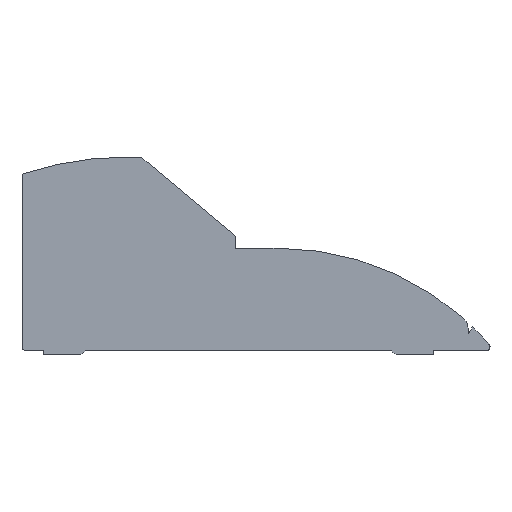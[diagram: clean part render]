
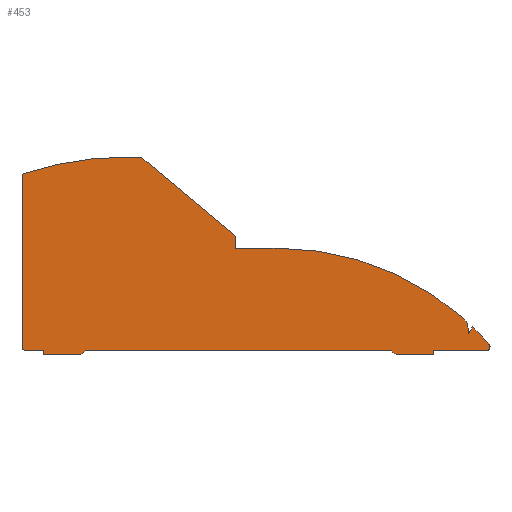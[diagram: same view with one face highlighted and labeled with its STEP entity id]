
A CAD part, left-side view. The second image highlights one B-rep face of the part: STEP entity #453.
In plain terms, the highlighted planar face has unit normal (-1, 0, 0).
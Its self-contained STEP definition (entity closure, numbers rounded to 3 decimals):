
#20=CIRCLE('',#489,162.1);
#29=CIRCLE('',#500,6.);
#30=CIRCLE('',#501,6.);
#31=CIRCLE('',#502,2.);
#32=CIRCLE('',#503,136.5);
#33=CIRCLE('',#504,7.3);
#34=CIRCLE('',#505,136.5);
#35=CIRCLE('',#506,2.);
#74=ORIENTED_EDGE('',*,*,#204,.F.);
#75=ORIENTED_EDGE('',*,*,#205,.T.);
#76=ORIENTED_EDGE('',*,*,#206,.T.);
#77=ORIENTED_EDGE('',*,*,#207,.T.);
#78=ORIENTED_EDGE('',*,*,#176,.F.);
#79=ORIENTED_EDGE('',*,*,#208,.F.);
#80=ORIENTED_EDGE('',*,*,#209,.F.);
#81=ORIENTED_EDGE('',*,*,#210,.F.);
#82=ORIENTED_EDGE('',*,*,#211,.F.);
#83=ORIENTED_EDGE('',*,*,#212,.T.);
#84=ORIENTED_EDGE('',*,*,#213,.F.);
#85=ORIENTED_EDGE('',*,*,#214,.F.);
#86=ORIENTED_EDGE('',*,*,#215,.F.);
#87=ORIENTED_EDGE('',*,*,#216,.F.);
#88=ORIENTED_EDGE('',*,*,#217,.F.);
#89=ORIENTED_EDGE('',*,*,#218,.F.);
#90=ORIENTED_EDGE('',*,*,#219,.T.);
#91=ORIENTED_EDGE('',*,*,#220,.T.);
#92=ORIENTED_EDGE('',*,*,#221,.T.);
#93=ORIENTED_EDGE('',*,*,#181,.T.);
#94=ORIENTED_EDGE('',*,*,#222,.F.);
#95=ORIENTED_EDGE('',*,*,#223,.T.);
#176=EDGE_CURVE('',#242,#243,#286,.T.);
#181=EDGE_CURVE('',#248,#246,#20,.T.);
#204=EDGE_CURVE('',#268,#269,#305,.T.);
#205=EDGE_CURVE('',#268,#270,#306,.T.);
#206=EDGE_CURVE('',#270,#271,#307,.T.);
#207=EDGE_CURVE('',#271,#243,#29,.T.);
#208=EDGE_CURVE('',#272,#242,#30,.F.);
#209=EDGE_CURVE('',#273,#272,#308,.T.);
#210=EDGE_CURVE('',#274,#273,#309,.T.);
#211=EDGE_CURVE('',#275,#274,#310,.T.);
#212=EDGE_CURVE('',#275,#276,#31,.F.);
#213=EDGE_CURVE('',#277,#276,#32,.T.);
#214=EDGE_CURVE('',#278,#277,#311,.T.);
#215=EDGE_CURVE('',#279,#278,#312,.T.);
#216=EDGE_CURVE('',#280,#279,#33,.T.);
#217=EDGE_CURVE('',#281,#280,#34,.T.);
#218=EDGE_CURVE('',#282,#281,#313,.T.);
#219=EDGE_CURVE('',#282,#283,#314,.T.);
#220=EDGE_CURVE('',#283,#284,#315,.T.);
#221=EDGE_CURVE('',#284,#248,#316,.T.);
#222=EDGE_CURVE('',#285,#246,#317,.T.);
#223=EDGE_CURVE('',#285,#269,#35,.F.);
#242=VERTEX_POINT('',#662);
#243=VERTEX_POINT('',#663);
#246=VERTEX_POINT('',#671);
#248=VERTEX_POINT('',#674);
#268=VERTEX_POINT('',#719);
#269=VERTEX_POINT('',#720);
#270=VERTEX_POINT('',#722);
#271=VERTEX_POINT('',#724);
#272=VERTEX_POINT('',#727);
#273=VERTEX_POINT('',#729);
#274=VERTEX_POINT('',#731);
#275=VERTEX_POINT('',#733);
#276=VERTEX_POINT('',#735);
#277=VERTEX_POINT('',#737);
#278=VERTEX_POINT('',#739);
#279=VERTEX_POINT('',#741);
#280=VERTEX_POINT('',#743);
#281=VERTEX_POINT('',#745);
#282=VERTEX_POINT('',#747);
#283=VERTEX_POINT('',#749);
#284=VERTEX_POINT('',#751);
#285=VERTEX_POINT('',#754);
#286=LINE('',#661,#336);
#305=LINE('',#718,#355);
#306=LINE('',#721,#356);
#307=LINE('',#723,#357);
#308=LINE('',#728,#358);
#309=LINE('',#730,#359);
#310=LINE('',#732,#360);
#311=LINE('',#738,#361);
#312=LINE('',#740,#362);
#313=LINE('',#746,#363);
#314=LINE('',#748,#364);
#315=LINE('',#750,#365);
#316=LINE('',#752,#366);
#317=LINE('',#753,#367);
#336=VECTOR('',#531,1000.);
#355=VECTOR('',#574,1000.);
#356=VECTOR('',#575,1000.);
#357=VECTOR('',#576,1000.);
#358=VECTOR('',#581,1000.);
#359=VECTOR('',#582,1000.);
#360=VECTOR('',#583,1000.);
#361=VECTOR('',#588,1000.);
#362=VECTOR('',#589,1000.);
#363=VECTOR('',#594,1000.);
#364=VECTOR('',#595,1000.);
#365=VECTOR('',#596,1000.);
#366=VECTOR('',#597,1000.);
#367=VECTOR('',#598,1000.);
#389=EDGE_LOOP('',(#74,#75,#76,#77,#78,#79,#80,#81,#82,#83,#84,#85,#86,
#87,#88,#89,#90,#91,#92,#93,#94,#95));
#413=FACE_BOUND('',#389,.T.);
#436=PLANE('',#499);
#453=ADVANCED_FACE('',(#413),#436,.F.);
#489=AXIS2_PLACEMENT_3D('',#673,#538,#539);
#499=AXIS2_PLACEMENT_3D('',#717,#572,#573);
#500=AXIS2_PLACEMENT_3D('',#725,#577,#578);
#501=AXIS2_PLACEMENT_3D('',#726,#579,#580);
#502=AXIS2_PLACEMENT_3D('',#734,#584,#585);
#503=AXIS2_PLACEMENT_3D('',#736,#586,#587);
#504=AXIS2_PLACEMENT_3D('',#742,#590,#591);
#505=AXIS2_PLACEMENT_3D('',#744,#592,#593);
#506=AXIS2_PLACEMENT_3D('',#755,#599,#600);
#531=DIRECTION('',(0.,1.,0.));
#538=DIRECTION('',(-1.,0.,0.));
#539=DIRECTION('',(0.,1.,0.));
#572=DIRECTION('',(1.,0.,0.));
#573=DIRECTION('',(0.,1.,0.));
#574=DIRECTION('',(0.,1.,0.));
#575=DIRECTION('',(0.,0.,-1.));
#576=DIRECTION('',(0.,-1.,0.));
#577=DIRECTION('',(-1.,0.,0.));
#578=DIRECTION('',(0.,-1.,0.));
#579=DIRECTION('',(-1.,0.,0.));
#580=DIRECTION('',(0.,-1.,0.));
#581=DIRECTION('',(0.,1.,0.));
#582=DIRECTION('',(0.,0.,-1.));
#583=DIRECTION('',(0.,1.,0.));
#584=DIRECTION('',(1.,0.,0.));
#585=DIRECTION('',(0.,1.,0.));
#586=DIRECTION('',(1.,0.,0.));
#587=DIRECTION('',(0.,1.,0.));
#588=DIRECTION('',(0.,-0.5,0.866));
#589=DIRECTION('',(0.,-0.087,-0.996));
#590=DIRECTION('',(1.,0.,0.));
#591=DIRECTION('',(0.,1.,0.));
#592=DIRECTION('',(1.,0.,0.));
#593=DIRECTION('',(0.,1.,0.));
#594=DIRECTION('',(0.,-1.,0.));
#595=DIRECTION('',(0.,0.,1.));
#596=DIRECTION('',(0.,0.766,0.643));
#597=DIRECTION('',(0.,1.,0.));
#598=DIRECTION('',(0.,0.,1.));
#599=DIRECTION('',(1.,0.,0.));
#600=DIRECTION('',(0.,1.,0.));
#661=CARTESIAN_POINT('',(-629.,-171.594,0.));
#662=CARTESIAN_POINT('',(-629.,-121.228,0.));
#663=CARTESIAN_POINT('',(-629.,27.946,0.));
#671=CARTESIAN_POINT('',(-629.,58.818,86.189));
#673=CARTESIAN_POINT('',(-629.,7.7,-67.64));
#674=CARTESIAN_POINT('',(-629.,7.7,94.46));
#717=CARTESIAN_POINT('',(-629.,66.,-86.5));
#718=CARTESIAN_POINT('',(-629.,-171.594,0.));
#719=CARTESIAN_POINT('',(-629.,48.518,0.));
#720=CARTESIAN_POINT('',(-629.,56.818,0.));
#721=CARTESIAN_POINT('',(-629.,48.518,0.));
#722=CARTESIAN_POINT('',(-629.,48.518,-2.));
#723=CARTESIAN_POINT('',(-629.,48.518,-2.));
#724=CARTESIAN_POINT('',(-629.,32.418,-2.));
#725=CARTESIAN_POINT('',(-629.,32.418,4.));
#726=CARTESIAN_POINT('',(-629.,-125.7,4.));
#727=CARTESIAN_POINT('',(-629.,-125.7,-2.));
#728=CARTESIAN_POINT('',(-629.,-141.8,-2.));
#729=CARTESIAN_POINT('',(-629.,-141.8,-2.));
#730=CARTESIAN_POINT('',(-629.,-141.8,0.));
#731=CARTESIAN_POINT('',(-629.,-141.8,0.));
#732=CARTESIAN_POINT('',(-629.,-171.594,0.));
#733=CARTESIAN_POINT('',(-629.,-167.282,0.));
#734=CARTESIAN_POINT('',(-629.,-167.282,2.));
#735=CARTESIAN_POINT('',(-629.,-168.788,3.316));
#736=CARTESIAN_POINT('',(-629.,-66.,-86.5));
#737=CARTESIAN_POINT('',(-629.,-160.759,11.75));
#738=CARTESIAN_POINT('',(-629.,-158.852,8.447));
#739=CARTESIAN_POINT('',(-629.,-158.852,8.447));
#740=CARTESIAN_POINT('',(-629.,-158.616,11.136));
#741=CARTESIAN_POINT('',(-629.,-158.616,11.136));
#742=CARTESIAN_POINT('',(-629.,-151.344,10.5));
#743=CARTESIAN_POINT('',(-629.,-156.166,15.981));
#744=CARTESIAN_POINT('',(-629.,-66.,-86.5));
#745=CARTESIAN_POINT('',(-629.,-66.,50.));
#746=CARTESIAN_POINT('',(-629.,66.,50.));
#747=CARTESIAN_POINT('',(-629.,-45.06,50.));
#748=CARTESIAN_POINT('',(-629.,-45.06,50.));
#749=CARTESIAN_POINT('',(-629.,-45.06,55.96));
#750=CARTESIAN_POINT('',(-629.,-45.06,55.96));
#751=CARTESIAN_POINT('',(-629.,0.823,94.46));
#752=CARTESIAN_POINT('',(-629.,0.823,94.46));
#753=CARTESIAN_POINT('',(-629.,58.818,-86.5));
#754=CARTESIAN_POINT('',(-629.,58.818,2.));
#755=CARTESIAN_POINT('',(-629.,56.818,2.));
